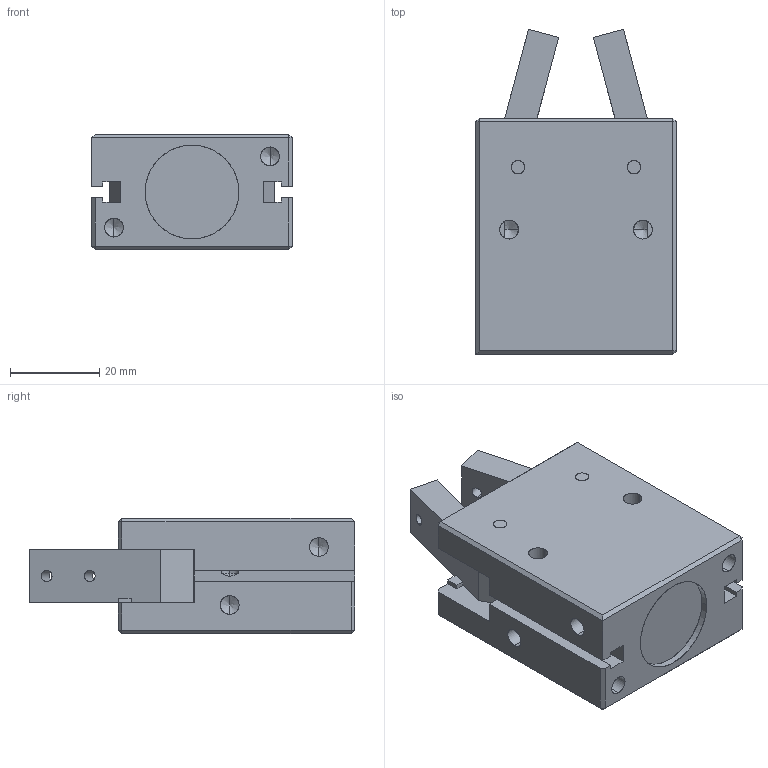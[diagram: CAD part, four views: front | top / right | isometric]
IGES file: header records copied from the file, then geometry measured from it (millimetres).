
Start section: SolidWorks IGES file using analytic representation for surfaces
Global section: file name: C:\Documents and Settings\SGA\Bureau\GDS.20\GDS.20-CLOSE.IGS; native system: SolidWorks 2010; preprocessor: SolidWorks 2010; author: SGA; date: 111020.134826; units: millimetre
Bounding box: 45 x 72.94 x 26 mm (x, y, z)
Surface area: 20061.8 mm2 (no closed solid volume)
Topology: 0 solids, 0 shells, 580 faces, 6550 edges, 6534 vertices
Faces by surface type: bspline 516, revolution 64
